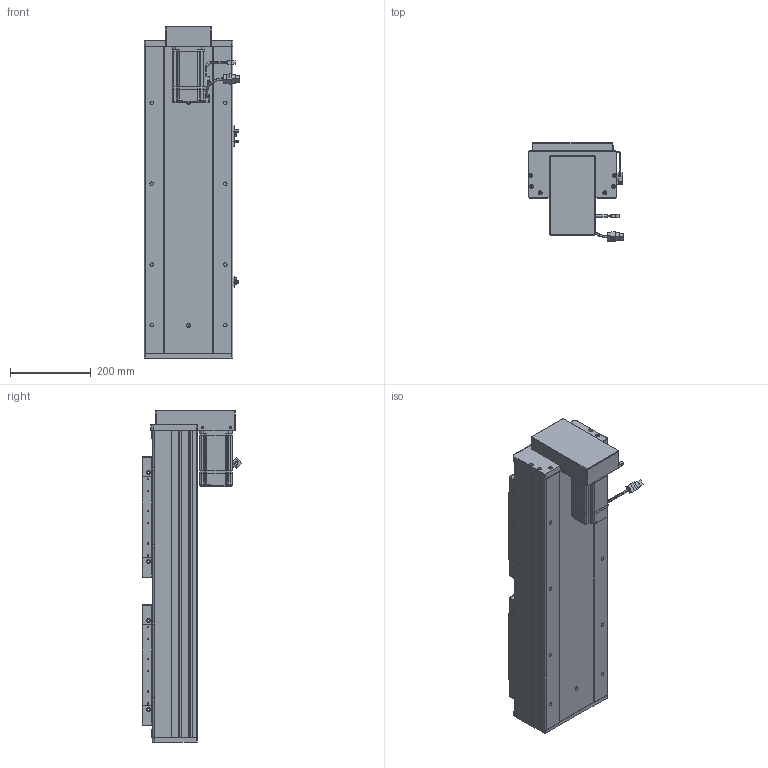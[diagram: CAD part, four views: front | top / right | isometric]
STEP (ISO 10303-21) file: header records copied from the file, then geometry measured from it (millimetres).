
FILE_DESCRIPTION (( 'STEP AP203' ), '1' );
FILE_NAME ('RY220F-L2525-300-BK.SLDASM_350.step', '2022-07-04T01:20:19', ( '' ), ( '' ), 'SwSTEP 2.0', 'SolidWorks 2016', '' );
FILE_SCHEMA (( 'CONFIG_CONTROL_DESIGN' ));
Length unit declared in the file: millimetre
Products named in the file (15): 怢湛750W_ECMA-CX0807ES; RY220F-672覜茼んえ; RY220F綴裔啣; RY220狟殏萇儂欶; RY220F蛌殏菁釱-300_350; RY220F-滅鳥奻裔; 侐源滅袉蝶; RY220F-詩湍揤踡輸; RY220F臏賑釱25-32佪裝; 覜茼ん672; RY220狟殏萇儂假蚾啣; RY220F-蛌殏奻裔啣-300_350; RY220F-祥凄詩湍-蛌殏-300_350; RY220F-L2525-300-BK.SLDASM_350; 滅袉蝶18-24
Assembly tree (24 placements, depth 2):
  RY220F-L2525-300-BK.SLDASM_350
    RY220F蛌殏菁釱-300_350
    RY220F-蛌殏奻裔啣-300_350  x2
    怢湛750W_ECMA-CX0807ES
    RY220F臏賑釱25-32佪裝  x2
    RY220F-滅鳥奻裔  x2
    滅袉蝶18-24  x3
    RY220F綴裔啣
    RY220F-祥凄詩湍-蛌殏-300_350
    RY220F-詩湍揤踡輸  x2
    覜茼ん672  x3
    RY220F-672覜茼んえ  x2
    侐源滅袉蝶  x2
    RY220狟殏萇儂假蚾啣
    RY220狟殏萇儂欶
Bounding box: 237.27 x 247.24 x 821 mm (x, y, z)
Volume: 10129719.8 mm3; surface area: 2515182.6 mm2
Topology: 25 solids, 25 shells, 2655 faces, 7234 edges, 4503 vertices
Faces by surface type: cylinder 1166, plane 1062, cone 356, bspline 45, sphere 16, torus 10
Entity records: 65513 total; most frequent: CARTESIAN_POINT 18145, ORIENTED_EDGE 9626, DIRECTION 9201, EDGE_CURVE 4813, AXIS2_PLACEMENT_3D 3226, VERTEX_POINT 3119, LINE 2749, VECTOR 2749
